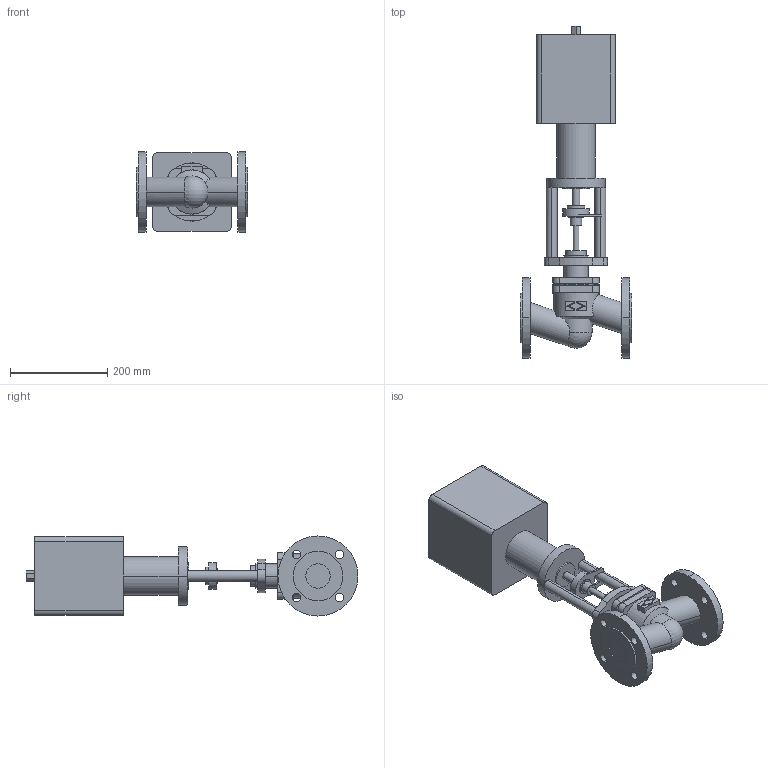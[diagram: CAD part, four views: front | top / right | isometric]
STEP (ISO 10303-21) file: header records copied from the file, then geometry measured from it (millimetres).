
FILE_DESCRIPTION( ( '' ), '1' );
FILE_NAME( 'F:/DE-SHS/TB/OR/04-Sonstiges/daten/files_3d/c000000778.stp', '2014-11-04T12:59:15', ( '' ), ( '' ), ' ', ' ', ' ' );
FILE_SCHEMA( ( 'CONFIG_CONTROL_DESIGN' ) );
Length unit declared in the file: millimetre
Products named in the file (2): 1; 2
Bounding box: 230 x 684.5 x 165 mm (x, y, z)
Volume: 7806429.7 mm3; surface area: 455645.1 mm2
Topology: 2 solids, 2 shells, 162 faces, 395 edges, 261 vertices
Faces by surface type: cylinder 82, plane 77, cone 2, sphere 1
Entity records: 5389 total; most frequent: CARTESIAN_POINT 1306, DIRECTION 883, ORIENTED_EDGE 786, EDGE_CURVE 393, AXIS2_PLACEMENT_3D 340, VERTEX_POINT 261, EDGE_LOOP 204, LINE 203
